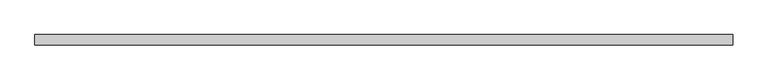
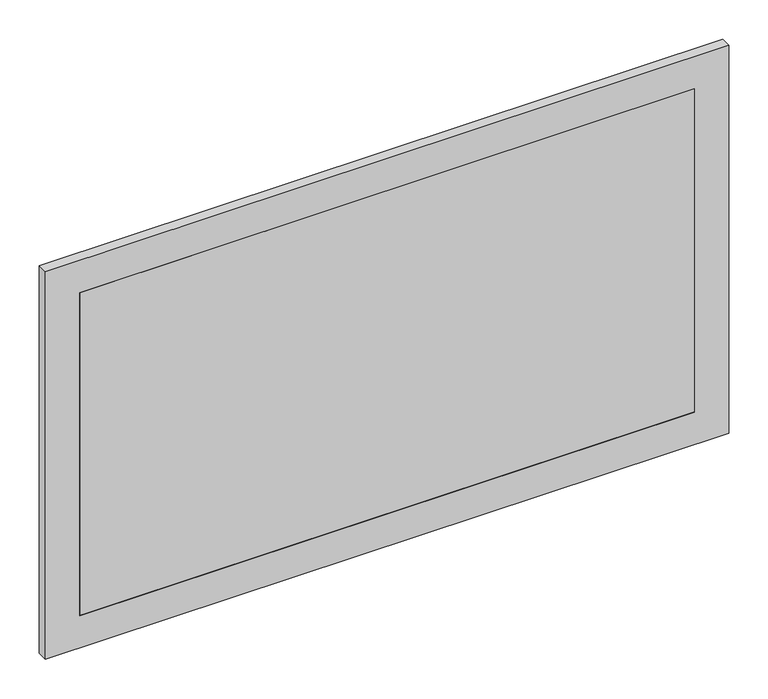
"""IFC4 building model written with IfcOpenShell, lengths in millimetres: air terminal geometry, Решетка декоративная_ВЛЖ : Решетка декоративная."""

from ifc_helpers import new_model, si_unit, frame, origin, place, context, project, spatial, polyline, outline, extrude, source, transform, mapped, element, save


def air_terminal_3ada21c2(model_context):
    return source(origin(), model_context, "Body", "SweptSolid", [
        extrude(outline(polyline([(300.0, 500.0), (300.0, -500.0), (-300.0, -500.0), (-300.0, 500.0), (300.0, 500.0)]), holes=[polyline([(250.0, 450.0), (-250.0, 450.0), (-250.0, -450.0), (250.0, -450.0), (250.0, 450.0)])]), frame((0.0, 0.0, 0.0), z_axis=(0.0, 1.0, 0.0), x_axis=(0.0, 0.0, 1.0)), (0.0, 0.0, 1.0), 15.0),
        extrude(outline(polyline([(450.0, 0.0), (-450.0, 0.0), (-450.0, 1.5), (450.0, 1.5), (450.0, 0.0)])), frame((0.0, 0.0, -250.0), z_axis=(0.0, 0.0, 1.0), x_axis=(1.0, 0.0, 0.0)), (0.0, 0.0, 1.0), 500.0),
    ])


if __name__ == "__main__":
    model = new_model("IFC4")
    model_context = context("Model", 3, world=origin())
    ifc_project = project(units=[si_unit("LENGTHUNIT", "METRE", prefix="MILLI")], contexts=[model_context])
    site = spatial("IfcSite", under=ifc_project)
    building = spatial("IfcBuilding", under=site)
    placement = place(None, origin())
    air_terminal_shape = air_terminal_3ada21c2(model_context)
    element("IfcAirTerminal", 1, ObjectType="Решетка декоративная_ВЛЖ : Решетка декоративная", at=placement, inside=building, context=model_context, shape_type="MappedRepresentation", body=[
        mapped(air_terminal_shape, transform((0.0, 0.0, 0.0), x_axis=(1.0, 0.0, 0.0), y_axis=(0.0, 1.0, 0.0), z_axis=(0.0, 0.0, 1.0))),
    ])
    save(model, "model.ifc")
